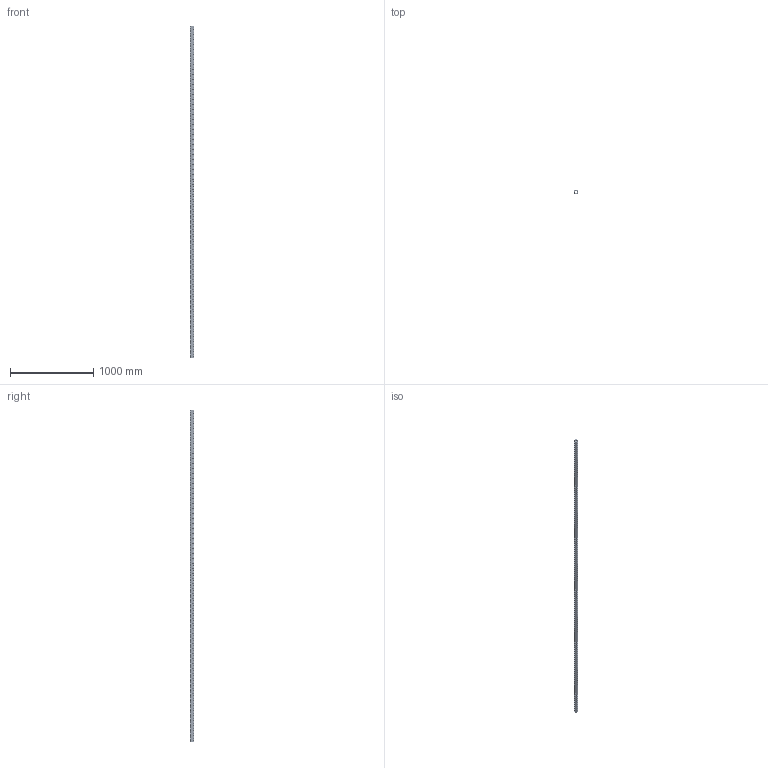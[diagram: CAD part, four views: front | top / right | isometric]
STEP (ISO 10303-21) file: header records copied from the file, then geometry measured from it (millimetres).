
FILE_DESCRIPTION(('CATIA V5 STEP Exchange'),'2;1');
FILE_NAME('U:\Room\唐宝山\EGT002\46-01-010362-01-EGT002-3988.stp','2021-08-25T01:08:48+00:00',('none'),('none'),'CATIA Version 5 Release 21 GA (IN-10)','CATIA V5 STEP AP203','none');
FILE_SCHEMA(('CONFIG_CONTROL_DESIGN'));
Products named in the file (1): 46-01-010362-01-EGT002-3988
Bounding box: 50 x 50 x 3988 mm (x, y, z)
Volume: 2841676.8 mm3; surface area: 1368219.5 mm2
Topology: 1 solids, 1 shells, 5404 faces, 14876 edges, 9208 vertices
Faces by surface type: cone 3192, cylinder 2186, plane 26
Entity records: 229168 total; most frequent: CARTESIAN_POINT 99081, ORIENTED_EDGE 29752, DIRECTION 20693, EDGE_CURVE 14876, AXIS2_PLACEMENT_3D 9574, VERTEX_POINT 9208, EDGE_LOOP 7268, VECTOR 5716
